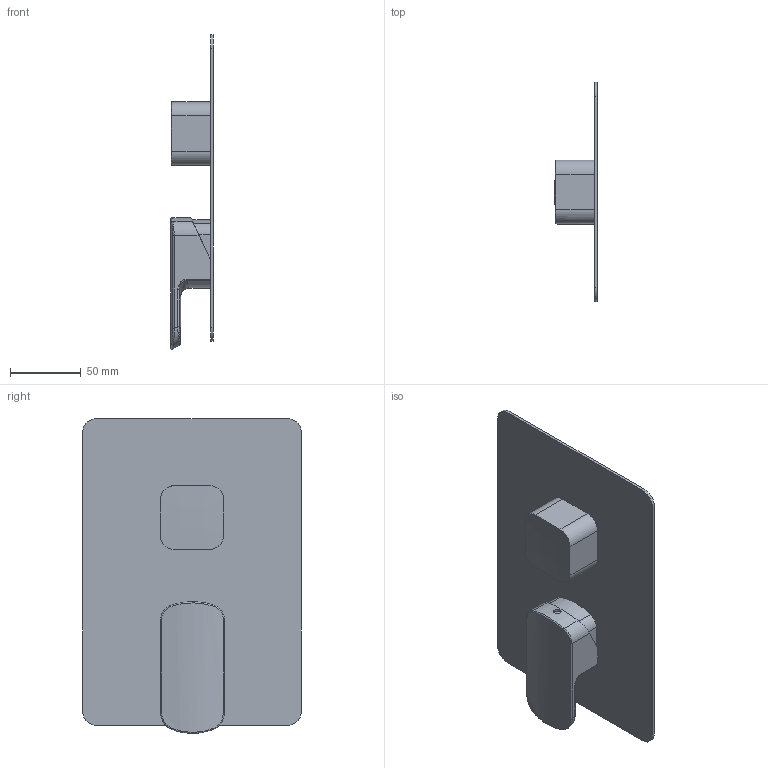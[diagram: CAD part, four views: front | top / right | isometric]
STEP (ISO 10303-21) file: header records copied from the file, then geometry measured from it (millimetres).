
FILE_DESCRIPTION (( 'STEP AP214' ), '1' );
FILE_NAME ('56224110 x architetti.STEP', '2024-11-25T16:25:25', ( '' ), ( '' ), 'SwSTEP 2.0', 'SolidWorks 2020', '' );
FILE_SCHEMA (( 'AUTOMOTIVE_DESIGN' ));
Length unit declared in the file: millimetre
Products named in the file (1): 56224110 x architetti
Bounding box: 30.29 x 155 x 222.75 mm (x, y, z)
Volume: 188464.7 mm3; surface area: 81691.3 mm2
Topology: 1 solids, 1 shells, 62 faces, 157 edges, 100 vertices
Faces by surface type: cylinder 29, plane 17, bspline 16
Entity records: 3631 total; most frequent: CARTESIAN_POINT 1625, ORIENTED_EDGE 314, DIRECTION 238, EDGE_CURVE 157, VERTEX_POINT 100, AXIS2_PLACEMENT_3D 83, LINE 72, VECTOR 72
